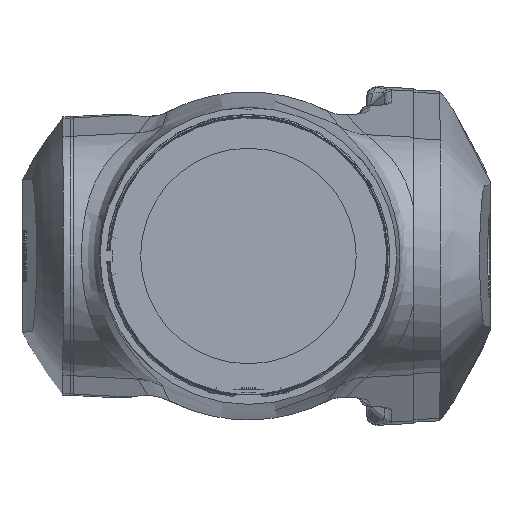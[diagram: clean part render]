
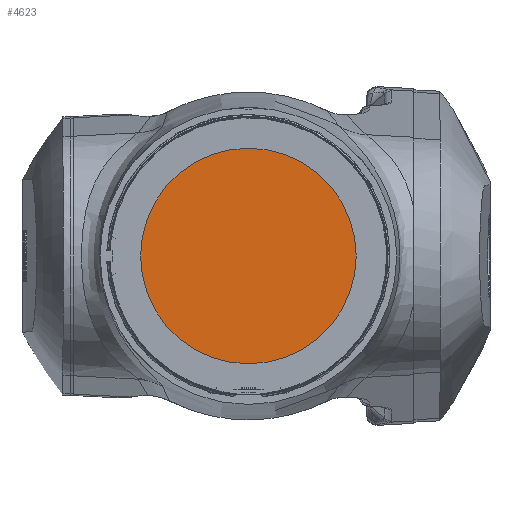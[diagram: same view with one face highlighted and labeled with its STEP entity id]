
A CAD part, left-side view. The second image highlights one B-rep face of the part: STEP entity #4623.
In plain terms, the highlighted planar face has unit normal (-1, 0, 0).
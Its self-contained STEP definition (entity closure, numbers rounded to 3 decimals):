
#301 = CARTESIAN_POINT ( 'NONE',  ( 537., 0., 1940. ) ) ;
#2946 = AXIS2_PLACEMENT_3D ( 'NONE', #17052, #22526, #8973 ) ;
#4623 = ADVANCED_FACE ( 'NONE', ( #22295 ), #12776, .T. ) ;
#8356 = EDGE_CURVE ( 'NONE', #13704, #13704, #22897, .T. ) ;
#8973 = DIRECTION ( 'NONE',  ( 0., -1., 0. ) ) ;
#9663 = CARTESIAN_POINT ( 'NONE',  ( 537., -85., 1940. ) ) ;
#12709 = EDGE_LOOP ( 'NONE', ( #14348 ) ) ;
#12776 = PLANE ( 'NONE',  #17827 ) ;
#13704 = VERTEX_POINT ( 'NONE', #9663 ) ;
#14348 = ORIENTED_EDGE ( 'NONE', *, *, #8356, .T. ) ;
#17052 = CARTESIAN_POINT ( 'NONE',  ( 537., 0., 1940. ) ) ;
#17827 = AXIS2_PLACEMENT_3D ( 'NONE', #301, #22557, #22427 ) ;
#22295 = FACE_OUTER_BOUND ( 'NONE', #12709, .T. ) ;
#22427 = DIRECTION ( 'NONE',  ( 0., -1., 0. ) ) ;
#22526 = DIRECTION ( 'NONE',  ( -1., 0., 0. ) ) ;
#22557 = DIRECTION ( 'NONE',  ( -1., 0., 0. ) ) ;
#22897 = CIRCLE ( 'NONE', #2946, 85. ) ;
